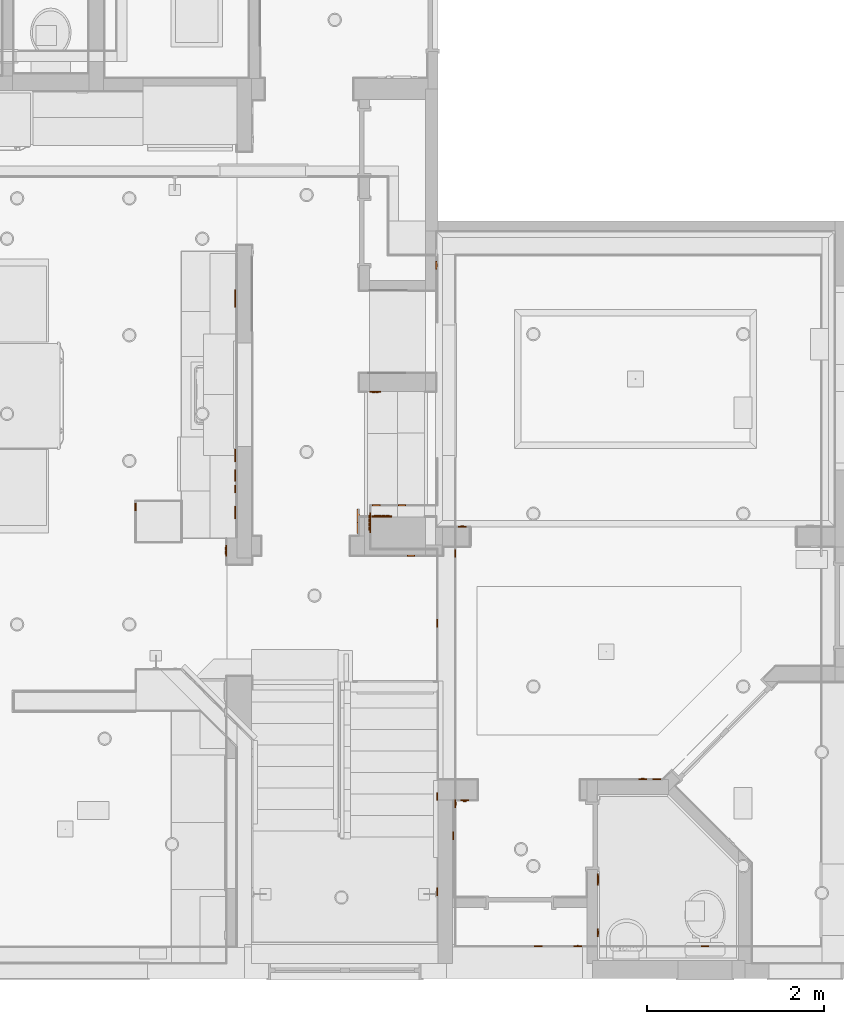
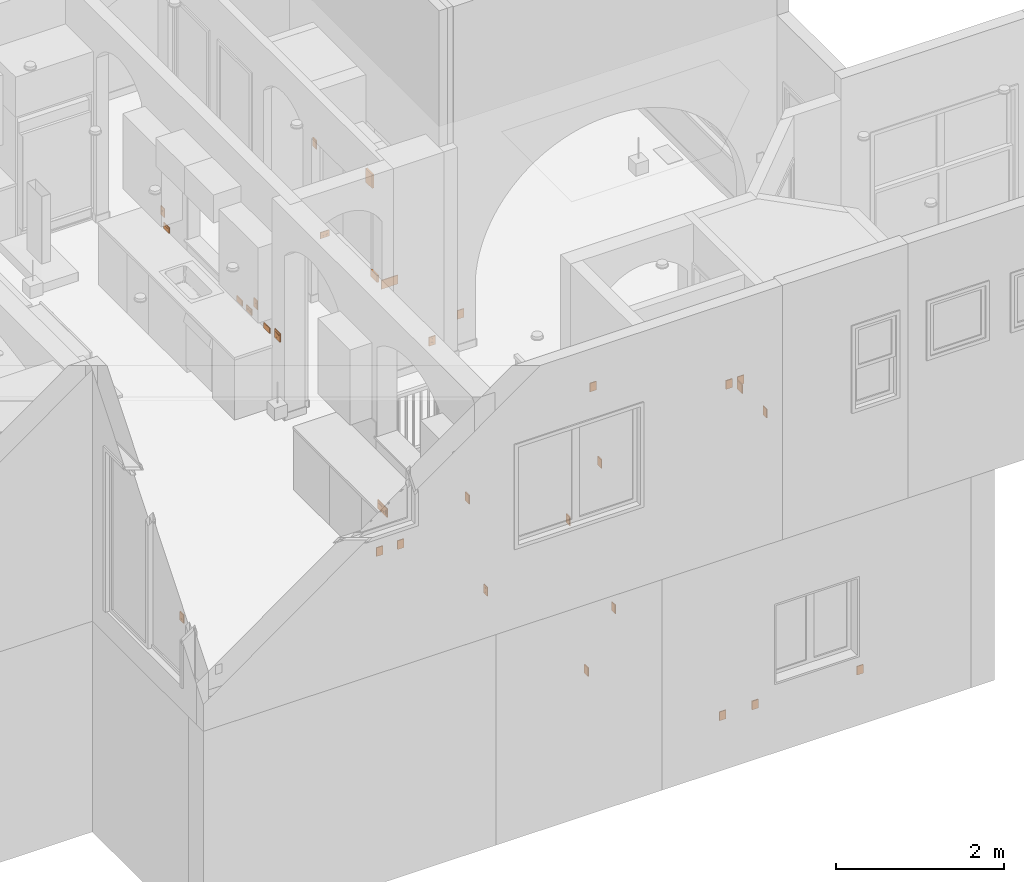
# One storey, part 53 of 60: 32 proxies.
"""IFC2X3 building model written with IfcOpenShell, lengths in feet."""

from ifc_helpers import new_model, entity, si_unit, converted_unit, direction, frame, frame_2d, origin, origin_2d_with_axis, place, context, subcontext, project, spatial, polyline, circle_curve, parameter, trimmed, segment, composite_curve, rectangle, outline, extrude, source, transform, mapped, material, type_object, type_shapes, element, save


model = new_model("IFC2X3")

# Units and contexts
model_context = context("Model", 3, precision=0.0001, world=origin(), true_north=direction((6.123031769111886e-17, 1.0)))
plan_context = context("Plan", 3, precision=0.0001, world=origin(), true_north=direction((6.123031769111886e-17, 1.0)))
body_context = subcontext(model_context, "Body", "Model", "MODEL_VIEW")
ifc_project = project(units=[converted_unit("LENGTHUNIT", "FOOT", entity("IfcLengthMeasure", 0.3048), si_unit("LENGTHUNIT", "METRE"), dimensions=[1, 0, 0, 0, 0, 0, 0]), converted_unit("AREAUNIT", "SQUARE FOOT", entity("IfcAreaMeasure", 0.09290304), si_unit("AREAUNIT", "SQUARE_METRE"), dimensions=[2, 0, 0, 0, 0, 0, 0]), converted_unit("PLANEANGLEUNIT", "DEGREE", entity("IfcPlaneAngleMeasure", 0.017453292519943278), si_unit("PLANEANGLEUNIT", "RADIAN"), dimensions=[0, 0, 0, 0, 0, 0, 0])], contexts=[model_context, plan_context])

# Site, building, storey
site_placement = place(None, origin())
site = spatial("IfcSite", under=ifc_project, at=site_placement, Name="Default", CompositionType="ELEMENT")
building_placement = place(site_placement, origin())
building = spatial("IfcBuilding", under=site, at=building_placement, CompositionType="ELEMENT")
storey_placement = place(building_placement, origin())
storey = spatial("IfcBuildingStorey", under=building, at=storey_placement, Name="First floor", CompositionType="ELEMENT", Elevation=0.0)

# Proxies
ifc_material = material(Name="Default New Material")
building_element_proxy_type_1 = type_object("IfcBuildingElementProxyType", Name="switch 4:switch 4", PredefinedType="NOTDEFINED", material=ifc_material)
shared_shape_1 = source(origin(), body_context, "Body", "SweptSolid", [
    extrude(outline(composite_curve([segment(polyline([(-0.030916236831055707, -0.046587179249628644), (0.030916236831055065, -0.046587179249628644)]), True, "CONTINUOUS"), segment(trimmed(circle_curve(frame_2d((-0.00026496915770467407, 0.0), x_axis=(-1.0, 0.0)), 0.056059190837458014), [parameter(123.79474084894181)], [parameter(236.20525915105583)], True, "PARAMETER"), True, "CONTINUOUS"), segment(polyline([(0.030916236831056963, 0.04658717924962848), (-0.030916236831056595, 0.04658717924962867)]), True, "CONTINUOUS"), segment(trimmed(circle_curve(frame_2d((0.00026496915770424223, 0.0), x_axis=(-1.0, 0.0)), 0.056059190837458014), [parameter(303.79474084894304)], [parameter(56.2052591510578)], True, "PARAMETER"), True, "CONTINUOUS")], self_intersect=False), holes=[polyline([(0.01416238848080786, 0.027928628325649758), (0.026173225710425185, 0.02792862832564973), (0.026173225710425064, -0.006935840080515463), (0.01416238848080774, -0.006935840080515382), (0.01416238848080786, 0.027928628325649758)]), polyline([(-0.015270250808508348, 0.025046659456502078), (-0.015270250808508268, -0.004483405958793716), (-0.0278178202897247, -0.0044834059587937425), (-0.027817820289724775, 0.025046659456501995), (-0.015270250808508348, 0.025046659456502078)]), composite_curve([segment(polyline([(-0.01203154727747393, -0.041319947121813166), (-0.01203154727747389, -0.030018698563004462)]), True, "CONTINUOUS"), segment(trimmed(circle_curve(frame_2d((-0.00028489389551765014, -0.03001869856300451), x_axis=(-1.0, 0.0)), 0.011746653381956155), [parameter(180.00000000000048)], [parameter(3.5622212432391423e-13)], True, "PARAMETER"), False, "CONTINUOUS"), segment(polyline([(0.011461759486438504, -0.030018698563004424), (0.01146175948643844, -0.04131994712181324)]), True, "CONTINUOUS"), segment(polyline([(0.01146175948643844, -0.04131994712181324), (-0.01203154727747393, -0.041319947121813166)]), True, "CONTINUOUS")], self_intersect=False)]), frame((-0.0011190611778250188, 0.2703726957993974, 0.041666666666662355)), (0.0, 0.0, 1.0), 0.004209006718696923),
    extrude(outline(composite_curve([segment(polyline([(-0.030763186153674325, -0.04635654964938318), (0.030763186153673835, -0.04635654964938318)]), True, "CONTINUOUS"), segment(trimmed(circle_curve(frame_2d((-0.00026365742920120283, 0.0), x_axis=(-1.0, 0.0)), 0.05578167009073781), [parameter(123.79474084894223)], [parameter(236.20525915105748)], True, "PARAMETER"), True, "CONTINUOUS"), segment(polyline([(0.030763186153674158, 0.04635654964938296), (-0.030763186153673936, 0.04635654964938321)]), True, "CONTINUOUS"), segment(trimmed(circle_curve(frame_2d((0.0002636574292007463, 0.0), x_axis=(-1.0, 0.0)), 0.05578167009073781), [parameter(303.7947408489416)], [parameter(56.205259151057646)], True, "PARAMETER"), True, "CONTINUOUS")], self_intersect=False), holes=[polyline([(0.014092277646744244, 0.024722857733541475), (0.02604365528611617, 0.024722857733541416), (0.026043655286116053, -0.004727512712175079), (0.014092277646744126, -0.004727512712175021), (0.014092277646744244, 0.024722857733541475)]), polyline([(-0.01519465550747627, 0.024922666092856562), (-0.015194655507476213, -0.004461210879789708), (-0.027680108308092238, -0.00446121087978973), (-0.027680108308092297, 0.02492266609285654), (-0.01519465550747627, 0.024922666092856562)]), composite_curve([segment(polyline([(-0.011971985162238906, -0.04111539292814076), (-0.011971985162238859, -0.029870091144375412)]), True, "CONTINUOUS"), segment(trimmed(circle_curve(frame_2d((-0.00028348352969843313, -0.029870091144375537), x_axis=(-1.0, 0.0)), 0.011688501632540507), [parameter(179.9999999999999)], [parameter(0.0)], True, "PARAMETER"), False, "CONTINUOUS"), segment(polyline([(0.011405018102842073, -0.029870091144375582), (0.011405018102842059, -0.04111539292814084)]), True, "CONTINUOUS"), segment(polyline([(0.011405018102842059, -0.04111539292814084), (-0.011971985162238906, -0.04111539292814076)]), True, "CONTINUOUS")], self_intersect=False)]), frame((-0.0011190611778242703, 0.14560208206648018, 0.041666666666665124)), (0.0, 0.0, 1.0), 0.004209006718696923),
    extrude(rectangle(XDim=0.41666666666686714, YDim=0.2916666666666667, at=origin_2d_with_axis()), frame((0.0, 0.2083333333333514, 0.0), z_axis=(0.0, 0.0, 1.0), x_axis=(0.0, -1.0, 0.0)), (0.0, 0.0, 1.0), 0.041666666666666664),
])
type_shapes(building_element_proxy_type_1, [shared_shape_1])
for number, where, z_axis, x_axis, name in (
    (1, (26.291666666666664, 1.6874999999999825, 14.333333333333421), (1.0, 0.0, 0.0), (0.0, 1.0, 0.0), "switch 4:switch 4"),
    (2, (20.91666666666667, 5.29166666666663, 11.625000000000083), (1.0, 0.0, 0.0), (0.0, 1.0, 0.0), "switch 4:switch 4"),
    (3, (19.374999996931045, 15.70798816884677, 11.666666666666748), (0.0, -1.0, 0.0), (1.0, 0.0, 0.0), "switch 4:switch 4"),
    (4, (27.97839112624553, 7.374999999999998, 11.62500000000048), (0.0, 1.0, 0.0), (-1.0, 0.0, 0.0), "switch 4:switch 4"),
    (5, (21.27083333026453, 16.75000033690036, 11.625002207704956), (0.0, 1.0, 0.0), (-1.0, 0.0, 0.0), "switch 4:switch 4"),
    (6, (21.0, 6.479166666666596, 0.9583355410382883), (1.0, 0.0, 0.0), (0.0, 1.0, 0.0), "switch 4:switch 4"),
    (7, (24.104166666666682, 1.166666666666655, 0.9583355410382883), (0.0, 1.0, 0.0), (-1.0, 0.0, 0.0), "switch 4:switch 4"),
    (8, (20.374999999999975, 13.187500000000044, 0.9583355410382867), (-1.0, 0.0, 0.0), (0.0, -1.0, 0.0), "switch 4:switch 4"),
    (9, (18.083333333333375, 17.54166666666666, 0.9583355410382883), (0.0, 1.0, 0.0), (-1.0, 0.0, 0.0), "switch 4:switch 4"),
    (10, (19.041666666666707, 17.541666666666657, 0.958335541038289), (0.0, 1.0, 0.0), (-1.0, 0.0, 0.0), "switch 4:switch 4"),
    (11, (9.166666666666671, 17.50000000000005, 0.9583355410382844), (-1.0, 0.0, 0.0), (0.0, -1.0, 0.0), "switch 4:switch 4"),
):
    element("IfcBuildingElementProxy", number, at=place(storey_placement, frame(where, z_axis=z_axis, x_axis=x_axis)), inside=storey, type_object=building_element_proxy_type_1, material=ifc_material, Name=name, ObjectType="switch 4:switch 4", context=body_context, shape_type="MappedRepresentation", body=[
        mapped(shared_shape_1, transform((0.0, 0.0, 0.0), scale=1.0)),
    ])
building_element_proxy_type_2 = type_object("IfcBuildingElementProxyType", Name="switch 1:switch 1", PredefinedType="NOTDEFINED", material=ifc_material)
shared_shape_2 = source(origin(), body_context, "Body", "SweptSolid", [
    extrude(rectangle(XDim=0.29166666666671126, YDim=0.41666666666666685, at=frame_2d((0.0, 2.7755575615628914e-17), x_axis=(1.0, 0.0))), frame((0.0, 0.20833333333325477, 0.0)), (0.0, 0.0, 1.0), 0.041666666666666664),
])
type_shapes(building_element_proxy_type_2, [shared_shape_2])
for number, where, z_axis, x_axis, name in (
    (12, (28.499461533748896, 7.3749999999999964, 11.62500000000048), (0.0, 1.0, 0.0), (-1.0, 0.0, 0.0), "switch 1:switch 1"),
    (13, (20.37499999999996, 3.208333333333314, 6.1666666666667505), (-1.0, 0.0, 0.0), (0.0, -1.0, 0.0), "switch 1:switch 1"),
    (14, (20.374999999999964, 6.750000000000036, 8.208333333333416), (-1.0, 0.0, 0.0), (0.0, -1.0, 0.0), "switch 1:switch 1"),
    (15, (21.0, 15.770833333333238, 3.5416666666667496), (1.0, 0.0, 0.0), (0.0, 1.0, 0.0), "switch 1:switch 1"),
    (16, (30.2916666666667, 1.166666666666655, 0.9583355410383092), (0.0, 1.0, 0.0), (-1.0, 0.0, 0.0), "switch 1:switch 1"),
):
    element("IfcBuildingElementProxy", number, at=place(storey_placement, frame(where, z_axis=z_axis, x_axis=x_axis)), inside=storey, type_object=building_element_proxy_type_2, material=ifc_material, Name=name, ObjectType="switch 1:switch 1", context=body_context, shape_type="MappedRepresentation", body=[
        mapped(shared_shape_2, transform((0.0, 0.0, 0.0), scale=1.0)),
    ])
building_element_proxy_type_3 = type_object("IfcBuildingElementProxyType", Name="switch 6:switch 6", PredefinedType="NOTDEFINED", material=ifc_material)
shared_shape_3 = source(origin(), body_context, "Body", "SweptSolid", [
    extrude(outline(polyline([(-0.025444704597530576, -0.10104762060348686), (-0.007049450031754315, -0.10104762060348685), (-0.005760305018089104, -0.027097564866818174), (0.02168554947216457, 0.1140991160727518), (0.0165689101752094, 0.11509369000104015), (-0.025444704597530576, -0.10104762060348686)])), frame((0.015553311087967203, 0.21435624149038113, 0.047363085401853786), z_axis=(1.0, 0.0, 0.0), x_axis=(0.0, -0.19080899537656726, 0.9816271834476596)), (0.0, 0.0, 1.0), 0.11722231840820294),
    extrude(outline(polyline([(-0.10560931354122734, -0.005954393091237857), (0.11457744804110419, -0.005954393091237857), (0.11457744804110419, -0.0007419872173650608), (-0.02169697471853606, -0.0007419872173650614), (-0.10184860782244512, 0.013392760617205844), (-0.10560931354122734, -0.005954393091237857)])), frame((-0.1301384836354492, 0.20531775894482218, 0.047621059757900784), z_axis=(1.0, 0.0, 0.0), x_axis=(0.0, 1.0, 0.0)), (0.0, 0.0, 1.0), 0.11504888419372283),
    extrude(rectangle(XDim=0.41666666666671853, YDim=0.41666666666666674, at=origin_2d_with_axis()), frame((0.0, 0.20833333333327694, 0.0), z_axis=(0.0, 0.0, 1.0), x_axis=(0.0, -1.0, 0.0)), (0.0, 0.0, 1.0), 0.041666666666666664),
])
type_shapes(building_element_proxy_type_3, [shared_shape_3])
for number, where, z_axis, x_axis, name in (
    (17, (26.291666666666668, 3.666666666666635, 14.333333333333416), (1.0, 0.0, 0.0), (0.0, 1.0, 0.0), "switch 6:switch 6"),
    (18, (12.541666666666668, 15.874654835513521, 14.208333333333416), (-1.0, 0.0, 0.0), (0.0, -1.0, 0.0), "switch 6:switch 6"),
):
    element("IfcBuildingElementProxy", number, at=place(storey_placement, frame(where, z_axis=z_axis, x_axis=x_axis)), inside=storey, type_object=building_element_proxy_type_3, material=ifc_material, Name=name, ObjectType="switch 6:switch 6", context=body_context, shape_type="MappedRepresentation", body=[
        mapped(shared_shape_3, transform((0.0, 0.0, 0.0), scale=1.0)),
    ])
building_element_proxy_type_4 = type_object("IfcBuildingElementProxyType", Name="switch 3:switch 3", PredefinedType="NOTDEFINED", material=ifc_material)
shared_shape_4 = source(origin(), body_context, "Body", "SweptSolid", [
    extrude(outline(polyline([(-0.10405409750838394, -0.0058649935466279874), (0.11210607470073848, -0.0058649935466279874), (0.11210607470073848, -0.0006525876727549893), (-0.02127056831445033, -0.0006525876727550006), (-0.09888748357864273, 0.013035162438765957), (-0.10405409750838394, -0.0058649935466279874)])), frame((-0.058349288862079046, 0.2099944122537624, 0.047531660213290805), z_axis=(1.0, 0.0, 0.0), x_axis=(0.0, 1.0, 0.0)), (0.0, 0.0, 1.0), 0.11669857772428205),
    extrude(rectangle(XDim=0.41666666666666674, YDim=0.2916666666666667, at=origin_2d_with_axis()), frame((0.0, 0.20833333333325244, 0.0), z_axis=(0.0, 0.0, 1.0), x_axis=(0.0, -1.0, 0.0)), (0.0, 0.0, 1.0), 0.041666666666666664),
])
type_shapes(building_element_proxy_type_4, [shared_shape_4])
for number, where, z_axis, x_axis, name in (
    (19, (21.37499999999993, 6.625000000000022, 14.291666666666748), (0.0, -1.0, 0.0), (1.0, 0.0, 0.0), "switch 3:switch 3"),
    (20, (20.291666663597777, 26.47916666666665, 14.208333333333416), (1.0, 0.0, 0.0), (0.0, 1.0, 0.0), "switch 3:switch 3"),
):
    element("IfcBuildingElementProxy", number, at=place(storey_placement, frame(where, z_axis=z_axis, x_axis=x_axis)), inside=storey, type_object=building_element_proxy_type_4, material=ifc_material, Name=name, ObjectType="switch 3:switch 3", context=body_context, shape_type="MappedRepresentation", body=[
        mapped(shared_shape_4, transform((0.0, 0.0, 0.0), scale=1.0)),
    ])
building_element_proxy_type_5 = type_object("IfcBuildingElementProxyType", Name="switch 22:switch 22", PredefinedType="NOTDEFINED", material=ifc_material)
shared_shape_5 = source(origin(), body_context, "Body", "SweptSolid", [
    extrude(outline(polyline([(-0.1024795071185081, -0.006558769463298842), (0.11153581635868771, -0.006558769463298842), (0.11153581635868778, -0.00013120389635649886), (-0.02198831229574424, -0.00013120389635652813), (-0.09860381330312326, 0.013379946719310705), (-0.1024795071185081, -0.006558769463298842)])), frame((0.16096584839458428, 0.2062485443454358, 0.048225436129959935), z_axis=(1.0, 0.0, 0.0), x_axis=(0.0, 1.0, 0.0)), (0.0, 0.0, 1.0), 0.12240828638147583),
    extrude(outline(polyline([(-0.10247950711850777, -0.006558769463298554), (0.11153581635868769, -0.006558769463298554), (0.1115358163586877, -0.00013120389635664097), (-0.021988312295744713, -0.0001312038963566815), (-0.09860381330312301, 0.013379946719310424), (-0.10247950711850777, -0.006558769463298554)])), frame((0.015378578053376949, 0.20624854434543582, 0.048225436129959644), z_axis=(1.0, 0.0, 0.0), x_axis=(0.0, 1.0, 0.0)), (0.0, 0.0, 1.0), 0.12240828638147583),
    extrude(outline(polyline([(-0.025847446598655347, -0.09895516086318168), (-0.0058806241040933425, -0.09895516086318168), (-0.004558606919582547, -0.023119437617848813), (0.02129807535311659, 0.10990166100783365), (0.01498860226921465, 0.11112809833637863), (-0.025847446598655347, -0.09895516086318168)])), frame((-0.1342669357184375, 0.21445876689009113, 0.04815768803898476), z_axis=(1.0, 0.0, 0.0), x_axis=(0.0, -0.19080899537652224, 0.9816271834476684)), (0.0, 0.0, 1.0), 0.1224082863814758),
    extrude(outline(polyline([(-0.025847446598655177, -0.09895516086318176), (-0.005880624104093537, -0.09895516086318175), (-0.004558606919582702, -0.02311943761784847), (0.021298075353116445, 0.10990166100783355), (0.014988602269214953, 0.11112809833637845), (-0.025847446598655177, -0.09895516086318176)])), frame((-0.2819047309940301, 0.21445876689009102, 0.048157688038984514), z_axis=(1.0, 0.0, 0.0), x_axis=(0.0, -0.19080899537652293, 0.9816271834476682)), (0.0, 0.0, 1.0), 0.12240828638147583),
    extrude(rectangle(XDim=0.7500000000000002, YDim=0.4166666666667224, at=frame_2d((2.7755575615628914e-17, 2.7755575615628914e-17), x_axis=(1.0, 0.0))), frame((0.0, 0.2083333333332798, 0.0)), (0.0, 0.0, 1.0), 0.041666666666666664),
])
type_shapes(building_element_proxy_type_5, [shared_shape_5])
for number, where, z_axis, x_axis, name in (
    (21, (18.29166666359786, 17.12465483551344, 13.958333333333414), (0.0, 1.0, 0.0), (-1.0, 0.0, 0.0), "switch 22:switch 22"),
    (22, (17.874999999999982, 16.91666666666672, 3.458333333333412), (-1.0, 0.0, 0.0), (0.0, -1.0, 0.0), "switch 22:switch 22"),
):
    element("IfcBuildingElementProxy", number, at=place(storey_placement, frame(where, z_axis=z_axis, x_axis=x_axis)), inside=storey, type_object=building_element_proxy_type_5, material=ifc_material, Name=name, ObjectType="switch 22:switch 22", context=body_context, shape_type="MappedRepresentation", body=[
        mapped(shared_shape_5, transform((0.0, 0.0, 0.0), scale=1.0)),
    ])
building_element_proxy_type_6 = type_object("IfcBuildingElementProxyType", Name="Specialty Equipment_1:Specialty Equipment_1", PredefinedType="NOTDEFINED", material=ifc_material)
shared_shape_6 = source(origin(), body_context, "Body", "SweptSolid", [
    extrude(rectangle(XDim=0.5, YDim=0.08333333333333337, at=origin_2d_with_axis()), frame((0.0, -0.041666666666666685, 0.0), z_axis=(0.0, 0.0, 1.0), x_axis=(-1.0, 0.0, 0.0)), (0.0, 0.0, 1.0), 0.3333333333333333),
])
type_shapes(building_element_proxy_type_6, [shared_shape_6])
proxy_1_placement = place(storey_placement, frame((17.374999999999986, 16.77048816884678, 14.833333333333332), z_axis=(0.0, 0.0, 1.0), x_axis=(0.0, 1.0, 0.0)))
element("IfcBuildingElementProxy", 23, at=proxy_1_placement, inside=storey, type_object=building_element_proxy_type_6, material=ifc_material, Name="Specialty Equipment_1:Specialty Equipment_1", ObjectType="Specialty Equipment_1:Specialty Equipment_1", context=body_context, shape_type="MappedRepresentation", body=[
    mapped(shared_shape_6, transform((0.0, 0.0, 0.0), scale=1.0)),
])
building_element_proxy_type_7 = type_object("IfcBuildingElementProxyType", Name="Specialty Equipment_1:Specialty Equipment_1", PredefinedType="NOTDEFINED", material=ifc_material)
shared_shape_7 = source(origin(), body_context, "Body", "SweptSolid", [
    extrude(rectangle(XDim=0.5, YDim=0.08333333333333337, at=origin_2d_with_axis()), frame((0.0, -0.041666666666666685, 0.0), z_axis=(0.0, 0.0, 1.0), x_axis=(-1.0, 0.0, 0.0)), (0.0, 0.0, 1.0), 0.6666666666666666),
])
type_shapes(building_element_proxy_type_7, [shared_shape_7])
proxy_2_placement = place(storey_placement, frame((17.37499999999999, 17.16632150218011, 19.083333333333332), z_axis=(0.0, 0.0, 1.0), x_axis=(0.0, 1.0, 0.0)))
element("IfcBuildingElementProxy", 24, at=proxy_2_placement, inside=storey, type_object=building_element_proxy_type_7, material=ifc_material, Name="Specialty Equipment_1:Specialty Equipment_1", ObjectType="Specialty Equipment_1:Specialty Equipment_1", context=body_context, shape_type="MappedRepresentation", body=[
    mapped(shared_shape_7, transform((0.0, 0.0, 0.0), scale=1.0)),
])
building_element_proxy_type_8 = type_object("IfcBuildingElementProxyType", Name="switch 24:switch 24", PredefinedType="NOTDEFINED", material=ifc_material)
shared_shape_8 = source(origin(), body_context, "Body", "SweptSolid", [
    extrude(outline(composite_curve([segment(trimmed(circle_curve(frame_2d((-0.0002636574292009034, 0.0), x_axis=(1.0, 0.0)), 0.05578167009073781), [parameter(303.79474084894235)], [parameter(56.20525915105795)], True, "PARAMETER"), True, "CONTINUOUS"), segment(polyline([(0.030763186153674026, 0.046356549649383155), (-0.03076318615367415, 0.046356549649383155)]), True, "CONTINUOUS"), segment(trimmed(circle_curve(frame_2d((0.0002636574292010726, 0.0), x_axis=(1.0, 0.0)), 0.05578167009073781), [parameter(123.79474084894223)], [parameter(236.20525915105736)], True, "PARAMETER"), True, "CONTINUOUS"), segment(polyline([(-0.03076318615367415, -0.046356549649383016), (0.03076318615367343, -0.04635654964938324)]), True, "CONTINUOUS")], self_intersect=False), holes=[polyline([(-0.014092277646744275, 0.024722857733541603), (-0.014092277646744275, -0.00472751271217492), (-0.026043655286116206, -0.004727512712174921), (-0.026043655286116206, 0.024722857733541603), (-0.014092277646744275, 0.024722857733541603)]), polyline([(0.015194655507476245, 0.024922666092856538), (0.02768010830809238, 0.024922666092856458), (0.0276801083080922, -0.004461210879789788), (0.015194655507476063, -0.004461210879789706), (0.015194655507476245, 0.024922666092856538)]), composite_curve([segment(polyline([(0.011971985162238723, -0.04111539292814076), (-0.011405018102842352, -0.04111539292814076)]), True, "CONTINUOUS"), segment(polyline([(-0.011405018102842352, -0.04111539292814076), (-0.011405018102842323, -0.02987009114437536)]), True, "CONTINUOUS"), segment(trimmed(circle_curve(frame_2d((0.0002834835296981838, -0.0298700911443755), x_axis=(1.0, 0.0)), 0.011688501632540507), [parameter(0.0)], [parameter(179.99999999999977)], True, "PARAMETER"), False, "CONTINUOUS"), segment(polyline([(0.011971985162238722, -0.029870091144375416), (0.011971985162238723, -0.04111539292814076)]), True, "CONTINUOUS")], self_intersect=False)]), frame((-0.0011190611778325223, 0.2210532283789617, 0.04166666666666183)), (0.0, 0.0, 1.0), 0.004209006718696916),
    extrude(rectangle(XDim=0.29166666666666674, YDim=0.41666666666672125, at=origin_2d_with_axis()), frame((0.0, 0.20833333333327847, 0.0)), (0.0, 0.0, 1.0), 0.041666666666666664),
])
type_shapes(building_element_proxy_type_8, [shared_shape_8])
for number, where, z_axis, x_axis, name in (
    (25, (12.874999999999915, 18.166321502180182, 14.208333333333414), (-1.0, 0.0, 0.0), (0.0, -1.0, 0.0), "switch 24:switch 24"),
    (26, (12.874999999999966, 25.4163215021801, 14.208333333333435), (-1.0, 0.0, 0.0), (0.0, -1.0, 0.0), "switch 24:switch 24"),
):
    element("IfcBuildingElementProxy", number, at=place(storey_placement, frame(where, z_axis=z_axis, x_axis=x_axis)), inside=storey, type_object=building_element_proxy_type_8, material=ifc_material, Name=name, ObjectType="switch 24:switch 24", context=body_context, shape_type="MappedRepresentation", body=[
        mapped(shared_shape_8, transform((0.0, 0.0, 0.0), scale=1.0)),
    ])
building_element_proxy_type_9 = type_object("IfcBuildingElementProxyType", Name="switch 1:switch 1", PredefinedType="NOTDEFINED", material=ifc_material)
shared_shape_9 = source(origin(), body_context, "Body", "SweptSolid", [
    extrude(rectangle(XDim=0.45833333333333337, YDim=0.2500000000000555, at=origin_2d_with_axis()), frame((0.0, 0.1249999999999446, 0.0)), (0.0, 0.0, 1.0), 0.041666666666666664),
])
type_shapes(building_element_proxy_type_9, [shared_shape_9])
for number, where, z_axis, x_axis, name in (
    (27, (12.874999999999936, 17.29132150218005, 13.666666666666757), (-1.0, 0.0, 0.0), (0.0, -1.0, 0.0), "switch 1:switch 1"),
    (28, (12.874999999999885, 19.41632150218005, 13.666666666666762), (-1.0, 0.0, 0.0), (0.0, -1.0, 0.0), "switch 1:switch 1"),
):
    element("IfcBuildingElementProxy", number, at=place(storey_placement, frame(where, z_axis=z_axis, x_axis=x_axis)), inside=storey, type_object=building_element_proxy_type_9, material=ifc_material, Name=name, ObjectType="switch 1:switch 1", context=body_context, shape_type="MappedRepresentation", body=[
        mapped(shared_shape_9, transform((0.0, 0.0, 0.0), scale=1.0)),
    ])
building_element_proxy_type_10 = type_object("IfcBuildingElementProxyType", Name="switch 2:switch 2", PredefinedType="NOTDEFINED", material=ifc_material)
shared_shape_10 = source(origin(), body_context, "Body", "SweptSolid", [
    extrude(outline(composite_curve([segment(polyline([(-0.01790821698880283, -0.027579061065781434), (-0.005574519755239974, -0.027579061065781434)]), True, "CONTINUOUS"), segment(polyline([(-0.005574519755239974, -0.027579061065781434), (0.024554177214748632, 0.03726229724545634)]), True, "CONTINUOUS"), segment(trimmed(circle_curve(frame_2d((0.0226613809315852, 0.03384387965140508), x_axis=(0.4213849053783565, 0.9068818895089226)), 0.003907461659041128), [parameter(355.9485174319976)], [parameter(77.06487124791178)], True, "PARAMETER"), True, "CONTINUOUS"), segment(polyline([(0.019576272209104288, 0.036241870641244), (-0.00069665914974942, -0.007388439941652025)]), True, "CONTINUOUS"), segment(polyline([(-0.00069665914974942, -0.007388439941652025), (-0.01995105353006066, -0.010957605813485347)]), True, "CONTINUOUS"), segment(polyline([(-0.01995105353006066, -0.010957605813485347), (-0.01790821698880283, -0.027579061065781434)]), True, "CONTINUOUS")], self_intersect=False)), frame((-0.015122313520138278, 0.20253742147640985, 0.04823263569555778), z_axis=(1.0, 0.0, 0.0), x_axis=(0.0, 0.4213849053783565, -0.9068818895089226)), (0.0, 0.0, 1.0), 0.02873604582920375),
    extrude(outline(polyline([(-0.022653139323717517, -0.04469238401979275), (0.02265313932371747, -0.04469238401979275), (0.022653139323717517, 0.04469238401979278), (-0.02265313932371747, 0.04469238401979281), (-0.022653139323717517, -0.04469238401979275)]), holes=[polyline([(-0.013613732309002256, -0.03636308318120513), (-0.013613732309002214, 0.035707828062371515), (0.015122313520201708, 0.035707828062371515), (0.015122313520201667, -0.03636308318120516), (-0.013613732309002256, -0.03636308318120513)])]), frame((0.0, 0.21088528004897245, 0.04166666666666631), z_axis=(0.0, 0.0, 1.0), x_axis=(-1.0, 0.0, 0.0)), (0.0, 0.0, 1.0), 0.004209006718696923),
    extrude(rectangle(XDim=0.29166666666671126, YDim=0.41666666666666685, at=frame_2d((0.0, 2.7755575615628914e-17), x_axis=(1.0, 0.0))), frame((0.0, 0.20833333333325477, 0.0)), (0.0, 0.0, 1.0), 0.041666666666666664),
])
type_shapes(building_element_proxy_type_10, [shared_shape_10])
proxy_3_placement = place(storey_placement, frame((25.562500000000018, 1.166666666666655, 0.9583355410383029), z_axis=(0.0, 1.0, 0.0), x_axis=(-1.0, 0.0, 0.0)))
element("IfcBuildingElementProxy", 29, at=proxy_3_placement, inside=storey, type_object=building_element_proxy_type_10, material=ifc_material, Name="switch 2:switch 2", ObjectType="switch 2:switch 2", context=body_context, shape_type="MappedRepresentation", body=[
    mapped(shared_shape_10, transform((0.0, 0.0, 0.0), scale=1.0)),
])
building_element_proxy_type_11 = type_object("IfcBuildingElementProxyType", Name="switch 15:switch 15", PredefinedType="NOTDEFINED", material=ifc_material)
shared_shape_11 = source(origin(), body_context, "Body", "SweptSolid", [
    extrude(outline(composite_curve([segment(polyline([(-0.030916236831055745, -0.04658717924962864), (0.030916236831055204, -0.04658717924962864)]), True, "CONTINUOUS"), segment(trimmed(circle_curve(frame_2d((-0.0002649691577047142, 0.0), x_axis=(-1.0, 0.0)), 0.056059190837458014), [parameter(123.79474084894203)], [parameter(236.20525915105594)], True, "PARAMETER"), True, "CONTINUOUS"), segment(polyline([(0.030916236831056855, 0.046587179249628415), (-0.030916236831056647, 0.04658717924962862)]), True, "CONTINUOUS"), segment(trimmed(circle_curve(frame_2d((0.0002649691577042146, 0.0), x_axis=(-1.0, 0.0)), 0.056059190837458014), [parameter(303.79474084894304)], [parameter(56.205259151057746)], True, "PARAMETER"), True, "CONTINUOUS")], self_intersect=False), holes=[polyline([(0.014162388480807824, 0.02792862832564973), (0.02617322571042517, 0.02792862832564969), (0.026173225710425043, -0.00693584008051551), (0.014162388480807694, -0.006935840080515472), (0.014162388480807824, 0.02792862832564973)]), polyline([(-0.015270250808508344, 0.025046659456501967), (-0.015270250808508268, -0.0044834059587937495), (-0.0278178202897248, -0.004483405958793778), (-0.02781782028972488, 0.025046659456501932), (-0.015270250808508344, 0.025046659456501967)]), composite_curve([segment(polyline([(-0.01203154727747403, -0.041319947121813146), (-0.012031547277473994, -0.03001869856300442)]), True, "CONTINUOUS"), segment(trimmed(circle_curve(frame_2d((-0.00028489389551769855, -0.030018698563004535), x_axis=(-1.0, 0.0)), 0.011746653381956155), [parameter(179.9999999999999)], [parameter(0.0)], True, "PARAMETER"), False, "CONTINUOUS"), segment(polyline([(0.01146175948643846, -0.030018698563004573), (0.011461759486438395, -0.041319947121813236)]), True, "CONTINUOUS"), segment(polyline([(0.011461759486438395, -0.041319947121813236), (-0.01203154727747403, -0.041319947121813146)]), True, "CONTINUOUS")], self_intersect=False)]), frame((-0.06250062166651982, 0.1354596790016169, 0.041666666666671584), z_axis=(0.0, 0.0, 1.0), x_axis=(0.0, 1.0, 0.0)), (0.0, 0.0, 1.0), 0.004209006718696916),
    extrude(outline(composite_curve([segment(polyline([(-0.030763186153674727, -0.04635654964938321), (0.030763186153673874, -0.04635654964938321)]), True, "CONTINUOUS"), segment(trimmed(circle_curve(frame_2d((-0.0002636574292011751, 0.0), x_axis=(-1.0, 0.0)), 0.05578167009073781), [parameter(123.79474084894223)], [parameter(236.20525915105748)], True, "PARAMETER"), True, "CONTINUOUS"), segment(polyline([(0.030763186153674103, 0.046356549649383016), (-0.03076318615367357, 0.04635654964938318)]), True, "CONTINUOUS"), segment(trimmed(circle_curve(frame_2d((0.000263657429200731, 0.0), x_axis=(-1.0, 0.0)), 0.05578167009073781), [parameter(303.7947408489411)], [parameter(56.205259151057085)], True, "PARAMETER"), True, "CONTINUOUS")], self_intersect=False), holes=[polyline([(0.014092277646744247, 0.024722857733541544), (0.026043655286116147, 0.024722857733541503), (0.026043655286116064, -0.00472751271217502), (0.014092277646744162, -0.004727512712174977), (0.014092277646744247, 0.024722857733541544)]), polyline([(-0.01519465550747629, 0.024922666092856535), (-0.015194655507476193, -0.004461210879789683), (-0.027680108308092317, -0.00446121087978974), (-0.027680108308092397, 0.024922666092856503), (-0.01519465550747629, 0.024922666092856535)]), composite_curve([segment(polyline([(-0.011971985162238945, -0.04111539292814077), (-0.011971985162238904, -0.029870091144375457)]), True, "CONTINUOUS"), segment(trimmed(circle_curve(frame_2d((-0.00028348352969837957, -0.029870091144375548), x_axis=(-1.0, 0.0)), 0.011688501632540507), [parameter(180.00000000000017)], [parameter(0.0)], True, "PARAMETER"), False, "CONTINUOUS"), segment(polyline([(0.01140501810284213, -0.029870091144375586), (0.011405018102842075, -0.04111539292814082)]), True, "CONTINUOUS"), segment(polyline([(0.011405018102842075, -0.04111539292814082), (-0.011971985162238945, -0.04111539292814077)]), True, "CONTINUOUS")], self_intersect=False)]), frame((0.06226999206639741, 0.13545967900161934, 0.041666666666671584), z_axis=(0.0, 0.0, 1.0), x_axis=(0.0, 1.0, 0.0)), (0.0, 0.0, 1.0), 0.004209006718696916),
    extrude(rectangle(XDim=0.41666666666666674, YDim=0.29166666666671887, at=origin_2d_with_axis()), frame((0.0, 0.14583333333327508, 0.0), z_axis=(0.0, 0.0, 1.0), x_axis=(-1.0, 0.0, 0.0)), (0.0, 0.0, 1.0), 0.04166666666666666),
])
type_shapes(building_element_proxy_type_11, [shared_shape_11])
for number, where, z_axis, x_axis, name in (
    (30, (12.874999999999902, 18.666321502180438, 13.666666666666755), (-1.0, 0.0, 0.0), (0.0, -1.0, 0.0), "switch 15:switch 15"),
    (31, (12.874999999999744, 25.124654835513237, 13.66666666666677), (-1.0, 0.0, 0.0), (0.0, -1.0, 0.0), "switch 15:switch 15"),
    (32, (18.041666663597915, 21.791321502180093, 13.585995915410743), (0.0, -1.0, 0.0), (1.0, 0.0, 0.0), "switch 15:switch 15"),
):
    element("IfcBuildingElementProxy", number, at=place(storey_placement, frame(where, z_axis=z_axis, x_axis=x_axis)), inside=storey, type_object=building_element_proxy_type_11, material=ifc_material, Name=name, ObjectType="switch 15:switch 15", context=body_context, shape_type="MappedRepresentation", body=[
        mapped(shared_shape_11, transform((0.0, 0.0, 0.0), scale=1.0)),
    ])

save(model, "model.ifc")
